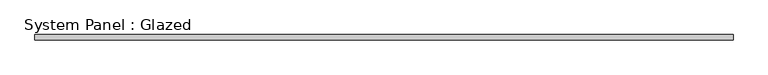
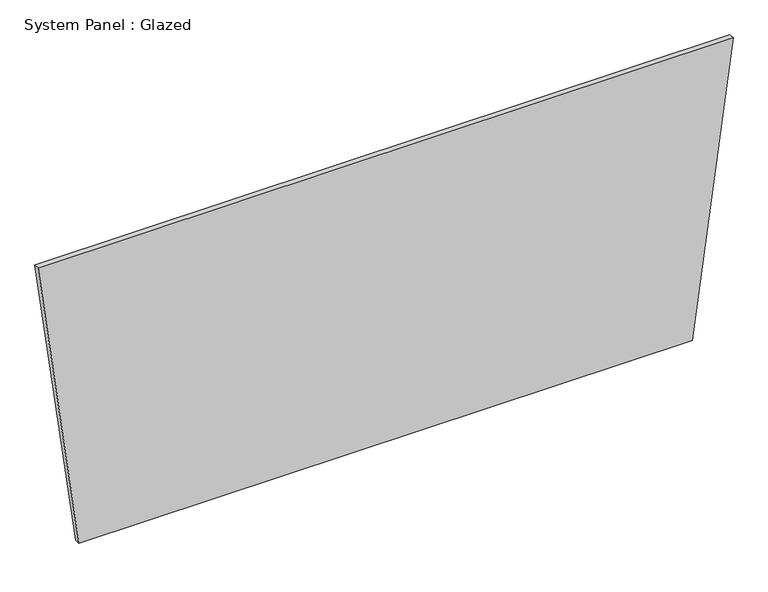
"""IFC4 building model written with IfcOpenShell, lengths in millimetres: plate geometry, System Panel : Glazed."""

from ifc_helpers import new_model, si_unit, frame, origin, place, context, project, spatial, polyline, outline, extrude, source, transform, mapped, element, save


def system_panel_glazed_cbcbf4f6(model_context):
    return source(origin(), model_context, "Body", "SweptSolid", [
        extrude(outline(polyline([(0.0, -1451.2341692), (0.0, 1451.2341692), (1447.0644321, 1644.6646052), (1447.0644321, -1644.6646052), (0.0, -1451.2341692)])), frame((0.0, 19.05, 0.0), z_axis=(0.0, 1.0, 0.0), x_axis=(0.0, 0.0, 1.0)), (0.0, 0.0, 1.0), 25.4),
    ])


if __name__ == "__main__":
    model = new_model("IFC4")
    model_context = context("Model", 3, world=origin())
    ifc_project = project(units=[si_unit("LENGTHUNIT", "METRE", prefix="MILLI")], contexts=[model_context])
    site = spatial("IfcSite", under=ifc_project)
    building = spatial("IfcBuilding", under=site)
    placement = place(None, origin())
    system_panel_glazed_shape = system_panel_glazed_cbcbf4f6(model_context)
    element("IfcPlate", 1, ObjectType="System Panel : Glazed", at=placement, inside=building, context=model_context, shape_type="MappedRepresentation", body=[
        mapped(system_panel_glazed_shape, transform((0.0, 0.0, 0.0), x_axis=(1.0, 0.0, 0.0), y_axis=(0.0, 1.0, 0.0), z_axis=(0.0, 0.0, 1.0))),
    ])
    save(model, "model.ifc")
